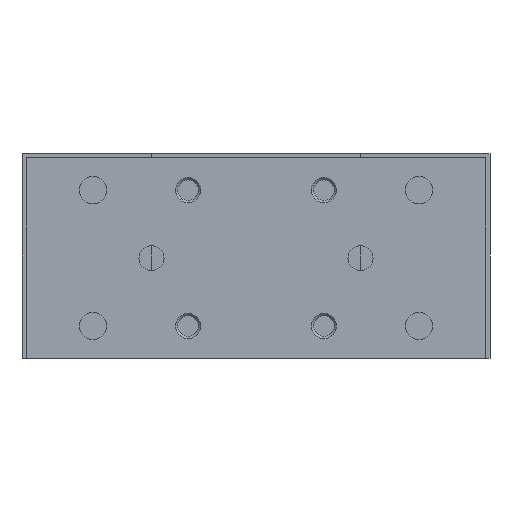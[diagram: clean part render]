
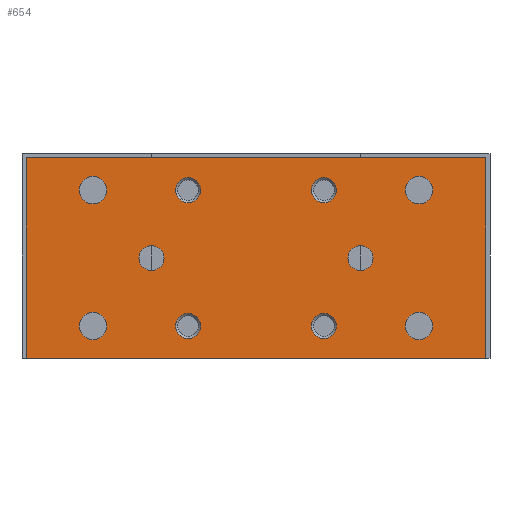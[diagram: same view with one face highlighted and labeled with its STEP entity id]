
A CAD part, left-side view. The second image highlights one B-rep face of the part: STEP entity #654.
In plain terms, the highlighted planar face has unit normal (-1, 0, 0).
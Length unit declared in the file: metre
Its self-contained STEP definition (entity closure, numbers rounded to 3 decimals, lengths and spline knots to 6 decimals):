
#654 = ADVANCED_FACE( '', ( #1546, #1547, #1548, #1549, #1550, #1551, #1552, #1553, #1554, #1555, #1556 ), #1557, .F. );
#1546 = FACE_BOUND( '', #2614, .T. );
#1547 = FACE_BOUND( '', #2615, .T. );
#1548 = FACE_BOUND( '', #2616, .T. );
#1549 = FACE_BOUND( '', #2617, .T. );
#1550 = FACE_BOUND( '', #2618, .T. );
#1551 = FACE_BOUND( '', #2619, .T. );
#1552 = FACE_BOUND( '', #2620, .T. );
#1553 = FACE_BOUND( '', #2621, .T. );
#1554 = FACE_BOUND( '', #2622, .T. );
#1555 = FACE_BOUND( '', #2623, .T. );
#1556 = FACE_OUTER_BOUND( '', #2624, .T. );
#1557 = PLANE( '', #2625 );
#2614 = EDGE_LOOP( '', ( #4203 ) );
#2615 = EDGE_LOOP( '', ( #4204 ) );
#2616 = EDGE_LOOP( '', ( #4205 ) );
#2617 = EDGE_LOOP( '', ( #4206 ) );
#2618 = EDGE_LOOP( '', ( #4207 ) );
#2619 = EDGE_LOOP( '', ( #4208 ) );
#2620 = EDGE_LOOP( '', ( #4209 ) );
#2621 = EDGE_LOOP( '', ( #4210 ) );
#2622 = EDGE_LOOP( '', ( #4211 ) );
#2623 = EDGE_LOOP( '', ( #4212 ) );
#2624 = EDGE_LOOP( '', ( #4213, #4214, #4215, #4216 ) );
#2625 = AXIS2_PLACEMENT_3D( '', #4217, #4218, #4219 );
#4203 = ORIENTED_EDGE( '', *, *, #5243, .T. );
#4204 = ORIENTED_EDGE( '', *, *, #4966, .T. );
#4205 = ORIENTED_EDGE( '', *, *, #5112, .T. );
#4206 = ORIENTED_EDGE( '', *, *, #4862, .T. );
#4207 = ORIENTED_EDGE( '', *, *, #4994, .F. );
#4208 = ORIENTED_EDGE( '', *, *, #4979, .T. );
#4209 = ORIENTED_EDGE( '', *, *, #5374, .T. );
#4210 = ORIENTED_EDGE( '', *, *, #5375, .F. );
#4211 = ORIENTED_EDGE( '', *, *, #5376, .F. );
#4212 = ORIENTED_EDGE( '', *, *, #5204, .T. );
#4213 = ORIENTED_EDGE( '', *, *, #5377, .T. );
#4214 = ORIENTED_EDGE( '', *, *, #5378, .T. );
#4215 = ORIENTED_EDGE( '', *, *, #5379, .T. );
#4216 = ORIENTED_EDGE( '', *, *, #5215, .T. );
#4217 = CARTESIAN_POINT( '', ( -0.07925, -0.055, -0.049 ) );
#4218 = DIRECTION( '', ( 1., 0., 0. ) );
#4219 = DIRECTION( '', ( 0., 1., 0. ) );
#4862 = EDGE_CURVE( '', #5542, #5542, #5543, .T. );
#4966 = EDGE_CURVE( '', #5724, #5724, #5725, .T. );
#4979 = EDGE_CURVE( '', #5745, #5745, #5746, .T. );
#4994 = EDGE_CURVE( '', #5767, #5767, #5768, .T. );
#5112 = EDGE_CURVE( '', #5959, #5959, #5960, .T. );
#5204 = EDGE_CURVE( '', #6098, #6098, #6099, .T. );
#5215 = EDGE_CURVE( '', #6115, #6113, #6116, .T. );
#5243 = EDGE_CURVE( '', #6157, #6157, #6158, .T. );
#5374 = EDGE_CURVE( '', #6331, #6331, #6332, .T. );
#5375 = EDGE_CURVE( '', #6333, #6333, #6334, .T. );
#5376 = EDGE_CURVE( '', #6335, #6335, #6336, .T. );
#5377 = EDGE_CURVE( '', #6113, #6337, #6338, .T. );
#5378 = EDGE_CURVE( '', #6337, #6339, #6340, .T. );
#5379 = EDGE_CURVE( '', #6339, #6115, #6341, .T. );
#5542 = VERTEX_POINT( '', #6534 );
#5543 = CIRCLE( '', #6535, 0.0033 );
#5724 = VERTEX_POINT( '', #6755 );
#5725 = CIRCLE( '', #6756, 0.0033 );
#5745 = VERTEX_POINT( '', #6779 );
#5746 = CIRCLE( '', #6780, 0.003 );
#5767 = VERTEX_POINT( '', #6804 );
#5768 = CIRCLE( '', #6805, 0.003 );
#5959 = VERTEX_POINT( '', #7086 );
#5960 = CIRCLE( '', #7087, 0.0033 );
#6098 = VERTEX_POINT( '', #7286 );
#6099 = CIRCLE( '', #7287, 0.003 );
#6113 = VERTEX_POINT( '', #7368 );
#6115 = VERTEX_POINT( '', #7371 );
#6116 = LINE( '', #7372, #7373 );
#6157 = VERTEX_POINT( '', #7423 );
#6158 = CIRCLE( '', #7424, 0.0033 );
#6331 = VERTEX_POINT( '', #7622 );
#6332 = CIRCLE( '', #7623, 0.003 );
#6333 = VERTEX_POINT( '', #7624 );
#6334 = CIRCLE( '', #7625, 0.003 );
#6335 = VERTEX_POINT( '', #7626 );
#6336 = CIRCLE( '', #7627, 0.003 );
#6337 = VERTEX_POINT( '', #7628 );
#6338 = LINE( '', #7629, #7630 );
#6339 = VERTEX_POINT( '', #7631 );
#6340 = LINE( '', #7632, #7633 );
#6341 = LINE( '', #7634, #7635 );
#6534 = CARTESIAN_POINT( '', ( -0.07925, 0.0423, -0.00875 ) );
#6535 = AXIS2_PLACEMENT_3D( '', #7853, #7854, #7855 );
#6755 = CARTESIAN_POINT( '', ( -0.07925, 0.0423, -0.04125 ) );
#6756 = AXIS2_PLACEMENT_3D( '', #8012, #8013, #8014 );
#6779 = CARTESIAN_POINT( '', ( -0.07925, 0.025, -0.022 ) );
#6780 = AXIS2_PLACEMENT_3D( '', #8033, #8034, #8035 );
#6804 = CARTESIAN_POINT( '', ( -0.07925, -0.025, -0.022 ) );
#6805 = AXIS2_PLACEMENT_3D( '', #8054, #8055, #8056 );
#7086 = CARTESIAN_POINT( '', ( -0.07925, -0.0357, -0.00875 ) );
#7087 = AXIS2_PLACEMENT_3D( '', #8240, #8241, #8242 );
#7286 = CARTESIAN_POINT( '', ( -0.07925, 0.01325, -0.00875 ) );
#7287 = AXIS2_PLACEMENT_3D( '', #8367, #8368, #8369 );
#7368 = CARTESIAN_POINT( '', ( -0.07925, -0.055, -0.049 ) );
#7371 = CARTESIAN_POINT( '', ( -0.07925, 0.055, -0.049 ) );
#7372 = CARTESIAN_POINT( '', ( -0.07925, 0.055, -0.049 ) );
#7373 = VECTOR( '', #8378, 1. );
#7423 = CARTESIAN_POINT( '', ( -0.07925, -0.0357, -0.04125 ) );
#7424 = AXIS2_PLACEMENT_3D( '', #8415, #8416, #8417 );
#7622 = CARTESIAN_POINT( '', ( -0.07925, -0.01325, -0.04125 ) );
#7623 = AXIS2_PLACEMENT_3D( '', #8560, #8561, #8562 );
#7624 = CARTESIAN_POINT( '', ( -0.07925, 0.01325, -0.04125 ) );
#7625 = AXIS2_PLACEMENT_3D( '', #8563, #8564, #8565 );
#7626 = CARTESIAN_POINT( '', ( -0.07925, -0.01325, -0.00875 ) );
#7627 = AXIS2_PLACEMENT_3D( '', #8566, #8567, #8568 );
#7628 = CARTESIAN_POINT( '', ( -0.07925, -0.055, -0.001 ) );
#7629 = CARTESIAN_POINT( '', ( -0.07925, -0.055, -0.049 ) );
#7630 = VECTOR( '', #8569, 1. );
#7631 = CARTESIAN_POINT( '', ( -0.07925, 0.055, -0.001 ) );
#7632 = CARTESIAN_POINT( '', ( -0.07925, -0.055, -0.001 ) );
#7633 = VECTOR( '', #8570, 1. );
#7634 = CARTESIAN_POINT( '', ( -0.07925, 0.055, -0.001 ) );
#7635 = VECTOR( '', #8571, 1. );
#7853 = CARTESIAN_POINT( '', ( -0.07925, 0.039, -0.00875 ) );
#7854 = DIRECTION( '', ( 1., 0., 0. ) );
#7855 = DIRECTION( '', ( 0., 1., 0. ) );
#8012 = CARTESIAN_POINT( '', ( -0.07925, 0.039, -0.04125 ) );
#8013 = DIRECTION( '', ( 1., 0., 0. ) );
#8014 = DIRECTION( '', ( 0., 1., 0. ) );
#8033 = CARTESIAN_POINT( '', ( -0.07925, 0.025, -0.025 ) );
#8034 = DIRECTION( '', ( 1., 0., 0. ) );
#8035 = DIRECTION( '', ( 0., 0., 1. ) );
#8054 = CARTESIAN_POINT( '', ( -0.07925, -0.025, -0.025 ) );
#8055 = DIRECTION( '', ( -1., 0., 0. ) );
#8056 = DIRECTION( '', ( 0., 0., 1. ) );
#8240 = CARTESIAN_POINT( '', ( -0.07925, -0.039, -0.00875 ) );
#8241 = DIRECTION( '', ( 1., 0., 0. ) );
#8242 = DIRECTION( '', ( 0., 1., 0. ) );
#8367 = CARTESIAN_POINT( '', ( -0.07925, 0.01625, -0.00875 ) );
#8368 = DIRECTION( '', ( 1., 0., 0. ) );
#8369 = DIRECTION( '', ( 0., -1., 0. ) );
#8378 = DIRECTION( '', ( 0., -1., 0. ) );
#8415 = CARTESIAN_POINT( '', ( -0.07925, -0.039, -0.04125 ) );
#8416 = DIRECTION( '', ( 1., 0., 0. ) );
#8417 = DIRECTION( '', ( 0., 1., 0. ) );
#8560 = CARTESIAN_POINT( '', ( -0.07925, -0.01625, -0.04125 ) );
#8561 = DIRECTION( '', ( 1., 0., 0. ) );
#8562 = DIRECTION( '', ( 0., 1., 0. ) );
#8563 = CARTESIAN_POINT( '', ( -0.07925, 0.01625, -0.04125 ) );
#8564 = DIRECTION( '', ( -1., 0., 0. ) );
#8565 = DIRECTION( '', ( 0., -1., 0. ) );
#8566 = CARTESIAN_POINT( '', ( -0.07925, -0.01625, -0.00875 ) );
#8567 = DIRECTION( '', ( -1., 0., 0. ) );
#8568 = DIRECTION( '', ( 0., 1., 0. ) );
#8569 = DIRECTION( '', ( 0., 0., 1. ) );
#8570 = DIRECTION( '', ( 0., 1., 0. ) );
#8571 = DIRECTION( '', ( 0., 0., -1. ) );
